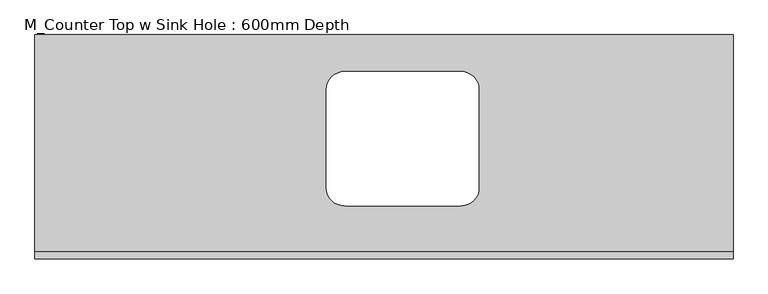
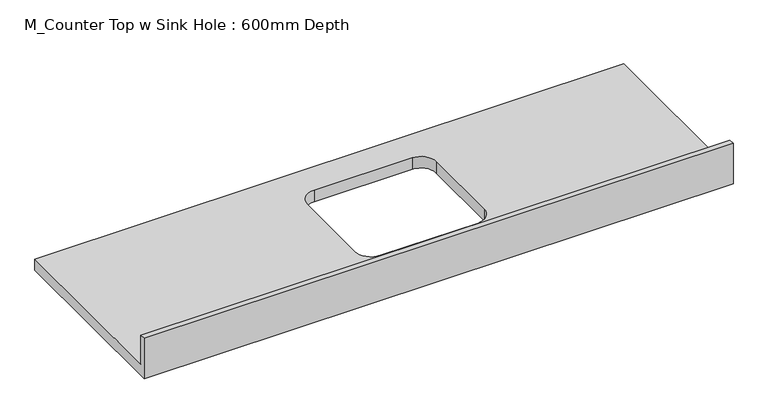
"""IFC4 building model written with IfcOpenShell, lengths in millimetres: furniture geometry, M_Counter Top w Sink Hole : 600mm Depth."""

from ifc_helpers import new_model, si_unit, frame, origin, place, context, project, spatial, polyline, circle_curve, source, transform, mapped, element, save
from ifc_brep_helpers import plane_surface, revolved_surface, advanced_brep


def m_counter_top_w_sink_hole_600mm_depth_60928b92(model_context):
    return source(origin(), model_context, "Body", "AdvancedBrep", [
        advanced_brep(
        [(-1200.4622951, 625.0, 900.0), (-1200.4622951, 19.05, 900.0), (745.5377049, 19.05, 900.0), (745.5377049, 625.0, 900.0), (-337.3622951, 147.3, 900.0), (-388.1622951, 198.1, 900.0), (-388.1622951, 471.9, 900.0), (-337.3622951, 522.7, 900.0), (-13.5622951, 522.7, 900.0), (37.2377049, 471.9, 900.0), (37.2377049, 198.1, 900.0), (-13.5622951, 147.3, 900.0), (745.5377049, 0.0, 860.0), (-1200.4622951, 0.0, 860.0), (-1200.4622951, 625.0, 860.0), (745.5377049, 625.0, 860.0), (-13.5622951, 147.3, 860.0), (37.2377049, 198.1, 860.0), (37.2377049, 471.9, 860.0), (-13.5622951, 522.7, 860.0), (-337.3622951, 522.7, 860.0), (-388.1622951, 471.9, 860.0), (-388.1622951, 198.1, 860.0), (-337.3622951, 147.3, 860.0), (745.5377049, 0.0, 1001.6), (-1200.4622951, 0.0, 1001.6), (-1200.4622951, 19.05, 1001.6), (745.5377049, 19.05, 1001.6)],
        [
            (0, 1),
            (1, 2),
            (2, 3),
            (3, 0),
            (4, 5, circle_curve(frame((-337.3622951, 198.1, 900.0), z_axis=(0.0, 0.0, -1.0), x_axis=(1.0, 0.0, 0.0)), 50.8)),
            (5, 6),
            (6, 7, circle_curve(frame((-337.3622951, 471.9, 900.0), z_axis=(0.0, 0.0, -1.0), x_axis=(1.0, 0.0, 0.0)), 50.8)),
            (7, 8),
            (8, 9, circle_curve(frame((-13.5622951, 471.9, 900.0), z_axis=(0.0, 0.0, -1.0), x_axis=(1.0, 0.0, 0.0)), 50.8)),
            (9, 10),
            (10, 11, circle_curve(frame((-13.5622951, 198.1, 900.0), z_axis=(0.0, 0.0, -1.0), x_axis=(1.0, 0.0, 0.0)), 50.8)),
            (11, 4),
            (12, 13),
            (13, 14),
            (14, 15),
            (15, 12),
            (16, 17, circle_curve(frame((-13.5622951, 198.1, 860.0), z_axis=(0.0, 0.0, 1.0), x_axis=(1.0, 0.0, 0.0)), 50.8)),
            (17, 18),
            (18, 19, circle_curve(frame((-13.5622951, 471.9, 860.0), z_axis=(0.0, 0.0, 1.0), x_axis=(1.0, 0.0, 0.0)), 50.8)),
            (19, 20),
            (20, 21, circle_curve(frame((-337.3622951, 471.9, 860.0), z_axis=(0.0, 0.0, 1.0), x_axis=(1.0, 0.0, 0.0)), 50.8)),
            (21, 22),
            (22, 23, circle_curve(frame((-337.3622951, 198.1, 860.0), z_axis=(0.0, 0.0, 1.0), x_axis=(1.0, 0.0, 0.0)), 50.8)),
            (23, 16),
            (12, 24),
            (24, 25),
            (25, 13),
            (25, 26),
            (26, 1),
            (0, 14),
            (3, 15),
            (2, 27),
            (27, 24),
            (27, 26),
            (11, 16),
            (23, 4),
            (22, 5),
            (21, 6),
            (20, 7),
            (19, 8),
            (18, 9),
            (17, 10),
        ],
        [
            plane_surface(frame((-1200.4622951, 0.0, 900.0), z_axis=(0.0, 0.0, 1.0), x_axis=(-1.0, 0.0, 0.0))),
            plane_surface(frame((-1200.4622951, 0.0, 860.0), z_axis=(0.0, 0.0, -1.0), x_axis=(1.0, 0.0, 0.0))),
            plane_surface(frame((745.5377049, 0.0, 900.0), z_axis=(0.0, -1.0, 0.0), x_axis=(0.0, 0.0, -1.0))),
            plane_surface(frame((-1200.4622951, 0.0, 900.0), z_axis=(-1.0, 0.0, 0.0), x_axis=(0.0, 0.0, -1.0))),
            plane_surface(frame((-1200.4622951, 625.0, 900.0), z_axis=(0.0, 1.0, 0.0), x_axis=(0.0, 0.0, -1.0))),
            plane_surface(frame((745.5377049, 625.0, 900.0), z_axis=(1.0, 0.0, 0.0), x_axis=(0.0, 0.0, -1.0))),
            plane_surface(frame((-1200.4622951, 0.0, 1001.6), z_axis=(0.0, 0.0, 1.0), x_axis=(0.0, 1.0, 0.0))),
            plane_surface(frame((-1200.4622951, 19.05, 1001.6), z_axis=(0.0, 1.0, 0.0), x_axis=(0.0, 0.0, -1.0))),
            plane_surface(frame((-13.5622951, 147.3, 900.0), z_axis=(0.0, 1.0, 0.0), x_axis=(0.0, 0.0, -1.0))),
            revolved_surface(polyline([(-286.5622951, 198.1, 900.0), (-286.5622951, 198.1, 860.0)]), (-337.3622951, 198.1, 860.0), (0.0, 0.0, 1.0)),
            plane_surface(frame((-388.1622951, 198.1, 900.0), z_axis=(1.0, 0.0, 0.0), x_axis=(0.0, 0.0, -1.0))),
            revolved_surface(polyline([(-286.5622951, 471.9, 900.0), (-286.5622951, 471.9, 860.0)]), (-337.3622951, 471.9, 860.0), (0.0, 0.0, 1.0)),
            plane_surface(frame((-337.3622951, 522.7, 900.0), z_axis=(0.0, -1.0, 0.0), x_axis=(0.0, 0.0, -1.0))),
            revolved_surface(polyline([(37.2377049, 471.9, 900.0), (37.2377049, 471.9, 860.0)]), (-13.5622951, 471.9, 860.0), (0.0, 0.0, 1.0)),
            plane_surface(frame((37.2377049, 471.9, 900.0), z_axis=(-1.0, 0.0, 0.0), x_axis=(0.0, 0.0, -1.0))),
            revolved_surface(polyline([(37.2377049, 198.1, 900.0), (37.2377049, 198.1, 860.0)]), (-13.5622951, 198.1, 860.0), (0.0, 0.0, 1.0)),
        ],
        [
            (0, [[1, 2, 3, 4], [5, 6, 7, 8, 9, 10, 11, 12]]),
            (1, [[13, 14, 15, 16], [17, 18, 19, 20, 21, 22, 23, 24]]),
            (2, [[25, 26, 27, -13]]),
            (3, [[-27, 28, 29, -1, 30, -14]]),
            (4, [[31, -15, -30, -4]]),
            (5, [[-31, -3, 32, 33, -25, -16]]),
            (6, [[-26, -33, 34, -28]]),
            (7, [[-32, -2, -29, -34]]),
            (8, [[-12, 35, -24, 36]]),
            (9, [[-23, 37, -5, -36]]),
            (10, [[-22, 38, -6, -37]]),
            (11, [[-21, 39, -7, -38]]),
            (12, [[-20, 40, -8, -39]]),
            (13, [[-19, 41, -9, -40]]),
            (14, [[-18, 42, -10, -41]]),
            (15, [[-11, -42, -17, -35]]),
        ],
    ),
    ])


if __name__ == "__main__":
    model = new_model("IFC4")
    model_context = context("Model", 3, world=origin())
    ifc_project = project(units=[si_unit("LENGTHUNIT", "METRE", prefix="MILLI")], contexts=[model_context])
    site = spatial("IfcSite", under=ifc_project)
    building = spatial("IfcBuilding", under=site)
    placement = place(None, origin())
    m_counter_top_w_sink_hole_600mm_depth_shape = m_counter_top_w_sink_hole_600mm_depth_60928b92(model_context)
    element("IfcFurniture", 1, ObjectType="M_Counter Top w Sink Hole : 600mm Depth", at=placement, inside=building, context=model_context, shape_type="MappedRepresentation", body=[
        mapped(m_counter_top_w_sink_hole_600mm_depth_shape, transform((0.0, 0.0, 0.0), x_axis=(1.0, 0.0, 0.0), y_axis=(0.0, 1.0, 0.0), z_axis=(0.0, 0.0, 1.0))),
    ])
    save(model, "model.ifc")
